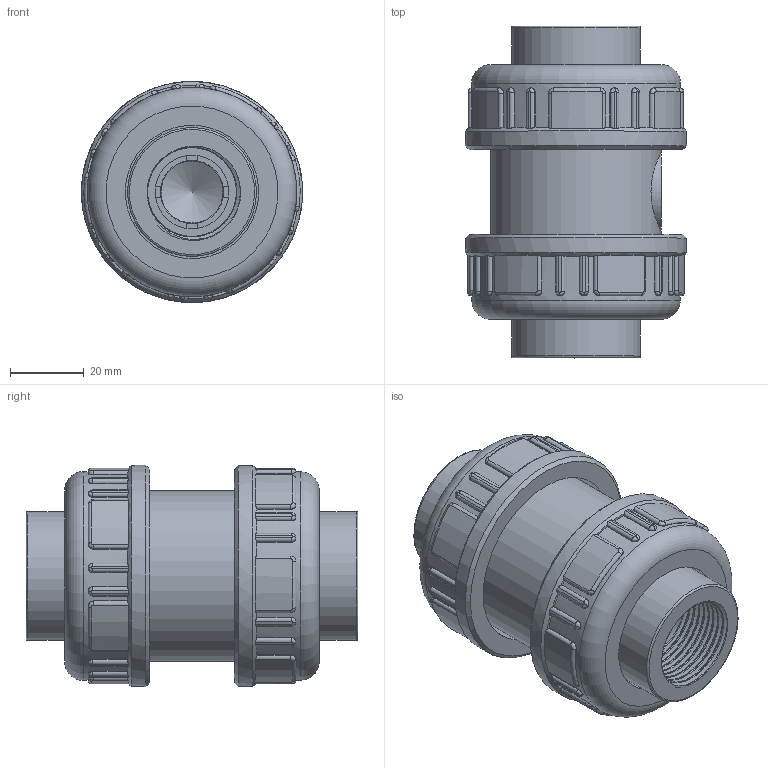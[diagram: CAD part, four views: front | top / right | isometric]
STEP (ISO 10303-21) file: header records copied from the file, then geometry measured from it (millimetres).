
FILE_DESCRIPTION(/* description */ (''),/* implementation_level */ '2;1');
FILE_NAME(/* name */ 'C:\Users\POLYPIPE\Desktop\DATASET INVENTOR\LIBRERIA EFFAST\3D_VALVOLE\3D_VALVOLE NON RITORNO\3D_CV\3D_CERCVE\OLD\3D_CERCVE025C.stp',/* time_stamp */ '2018-01-24T17:00:20+01:00',/* author */ ('POLYPIPE'),/* organization */ (''),/* preprocessor_version */ 'ST-DEVELOPER v16.1',/* originating_system */ 'Autodesk Inventor 2016',/* authorisation */ '');
FILE_SCHEMA (('CONFIG_CONTROL_DESIGN'));
Length unit declared in the file: centimetre
Products named in the file (1): 3D_CERCVE025C
Bounding box: 60 x 90 x 60 mm (x, y, z)
Volume: 118024.4 mm3; surface area: 54964.1 mm2
Topology: 2 solids, 4 shells, 566 faces, 1477 edges, 937 vertices
Faces by surface type: plane 206, bspline 156, cylinder 151, torus 43, cone 10
Full cylindrical faces by diameter (mm): 18.8 x1, 20 x2, 20.1 x1, 20.2 x1, 22.8 x1, 23.8 x2, 24.117 x2, 26 x1, 29.5 x1, 31.4 x1, 31.8 x1, 32.3 x1, 35 x3, 36.2 x2, 38 x1, 38.5 x1, 38.8 x1, 39.4 x1, 43 x2, 46.15 x1, 48.3 x2, 56.7 x2, 60 x2
Entity records: 68539 total; most frequent: CARTESIAN_POINT 55226, ORIENTED_EDGE 2792, DIRECTION 2333, EDGE_CURVE 1396, VERTEX_POINT 919, AXIS2_PLACEMENT_3D 891, EDGE_LOOP 661, STYLED_ITEM 568
